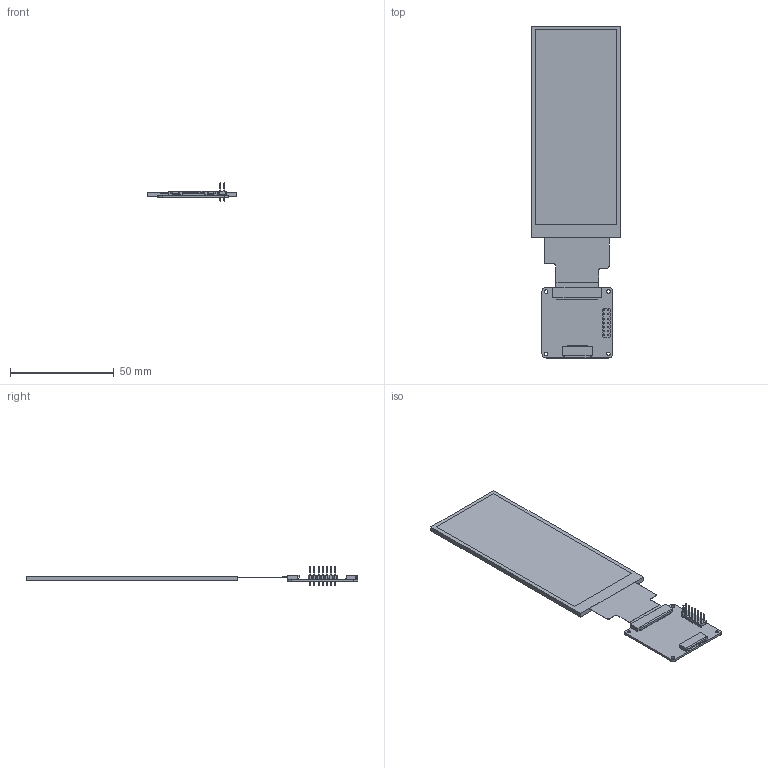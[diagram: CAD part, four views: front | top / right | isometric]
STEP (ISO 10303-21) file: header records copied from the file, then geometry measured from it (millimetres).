
FILE_DESCRIPTION((''),'2;1');
FILE_NAME('TS040FWV02NP-B1519B-V00-241209','2024-12-09T15:24:07',('Shaozi'),(''),'CREO PARAMETRIC BY PTC INC, 2024063','CREO PARAMETRIC BY PTC INC, 2024063','');
FILE_SCHEMA(('AUTOMOTIVE_DESIGN { 1 0 10303 214 1 1 1 1 }'));
Length unit declared in the file: millimetre
Products named in the file (1): TS040FWV02NP-B1519B-V00-241209
Bounding box: 42.9 x 159.9 x 8.8 mm (x, y, z)
Surface area: 14089.5 mm2 (no closed solid volume)
Topology: 0 solids, 20 shells, 309 faces, 911 edges, 634 vertices
Faces by surface type: plane 293, cylinder 16
Entity records: 11947 total; most frequent: CARTESIAN_POINT 1854, ORIENTED_EDGE 1604, DIRECTION 1565, EDGE_CURVE 911, VECTOR 875, LINE 875, VERTEX_POINT 634, AXIS2_PLACEMENT_3D 345
